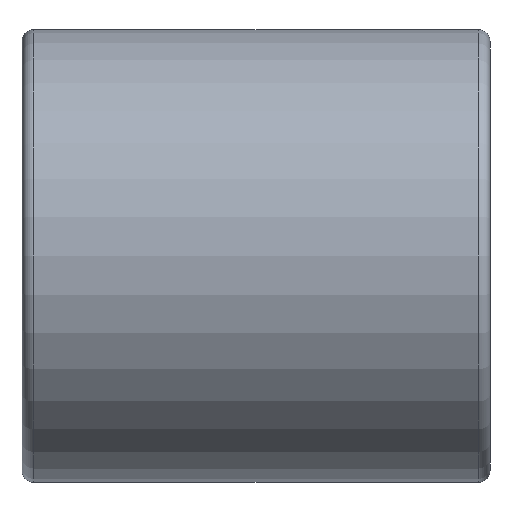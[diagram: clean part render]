
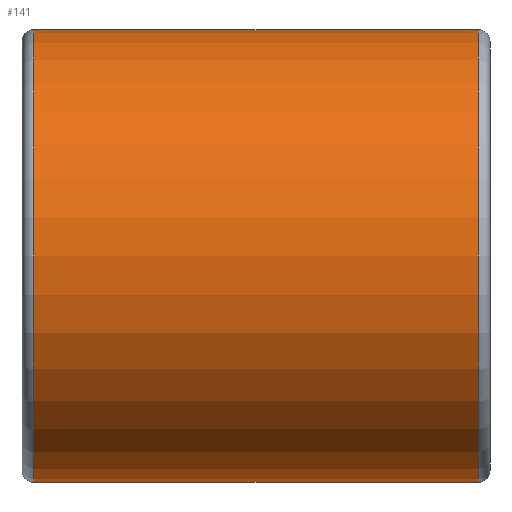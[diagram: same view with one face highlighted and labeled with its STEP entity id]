
A CAD part, front view. The second image highlights one B-rep face of the part: STEP entity #141.
In plain terms, the highlighted cylindrical face has radius 29 mm (diameter 58 mm), a full revolution.
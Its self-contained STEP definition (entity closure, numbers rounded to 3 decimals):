
#15=LINE('',#269,#17);
#17=VECTOR('',#224,29.);
#19=CYLINDRICAL_SURFACE('',#179,29.);
#28=FACE_OUTER_BOUND('',#37,.T.);
#37=EDGE_LOOP('',(#106,#107,#108,#109,#110,#111));
#49=CIRCLE('',#176,29.);
#50=CIRCLE('',#177,29.);
#52=CIRCLE('',#180,29.);
#53=CIRCLE('',#181,29.);
#64=VERTEX_POINT('',#260);
#65=VERTEX_POINT('',#261);
#66=VERTEX_POINT('',#266);
#67=VERTEX_POINT('',#267);
#78=EDGE_CURVE('',#64,#65,#49,.T.);
#79=EDGE_CURVE('',#65,#64,#50,.T.);
#81=EDGE_CURVE('',#66,#67,#52,.T.);
#82=EDGE_CURVE('',#66,#65,#15,.T.);
#83=EDGE_CURVE('',#67,#66,#53,.T.);
#106=ORIENTED_EDGE('',*,*,#81,.F.);
#107=ORIENTED_EDGE('',*,*,#82,.T.);
#108=ORIENTED_EDGE('',*,*,#78,.F.);
#109=ORIENTED_EDGE('',*,*,#79,.F.);
#110=ORIENTED_EDGE('',*,*,#82,.F.);
#111=ORIENTED_EDGE('',*,*,#83,.F.);
#141=ADVANCED_FACE('',(#28),#19,.T.);
#176=AXIS2_PLACEMENT_3D('',#262,#214,#215);
#177=AXIS2_PLACEMENT_3D('',#263,#216,#217);
#179=AXIS2_PLACEMENT_3D('',#265,#220,#221);
#180=AXIS2_PLACEMENT_3D('',#268,#222,#223);
#181=AXIS2_PLACEMENT_3D('',#270,#225,#226);
#214=DIRECTION('center_axis',(-1.,0.,0.));
#215=DIRECTION('ref_axis',(0.,-1.,0.));
#216=DIRECTION('center_axis',(-1.,0.,0.));
#217=DIRECTION('ref_axis',(0.,-1.,0.));
#220=DIRECTION('center_axis',(1.,0.,0.));
#221=DIRECTION('ref_axis',(0.,1.,0.));
#222=DIRECTION('center_axis',(1.,0.,0.));
#223=DIRECTION('ref_axis',(0.,-1.,0.));
#224=DIRECTION('',(-1.,0.,0.));
#225=DIRECTION('center_axis',(1.,0.,0.));
#226=DIRECTION('ref_axis',(0.,-1.,0.));
#260=CARTESIAN_POINT('',(1.5,0.,29.));
#261=CARTESIAN_POINT('',(1.5,-29.,0.));
#262=CARTESIAN_POINT('Origin',(1.5,0.,0.));
#263=CARTESIAN_POINT('Origin',(1.5,0.,0.));
#265=CARTESIAN_POINT('Origin',(30.,0.,0.));
#266=CARTESIAN_POINT('',(58.5,-29.,0.));
#267=CARTESIAN_POINT('',(58.5,0.,29.));
#268=CARTESIAN_POINT('Origin',(58.5,0.,0.));
#269=CARTESIAN_POINT('',(30.,-29.,0.));
#270=CARTESIAN_POINT('Origin',(58.5,0.,0.));
